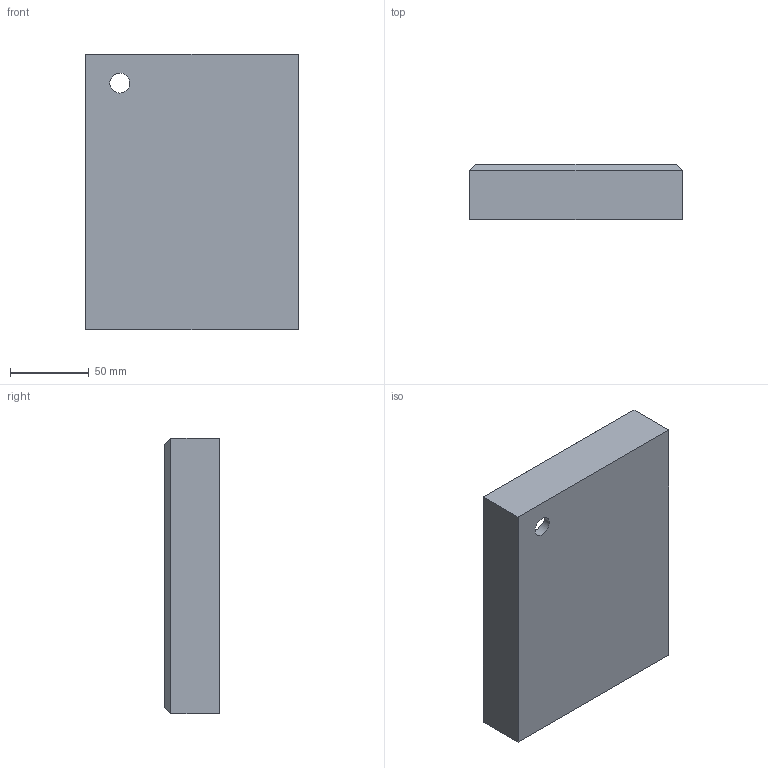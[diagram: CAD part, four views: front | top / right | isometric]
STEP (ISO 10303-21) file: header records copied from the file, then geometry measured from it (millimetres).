
FILE_DESCRIPTION (( 'STEP AP214' ), '1' );
FILE_NAME ('LightBox.STEP', '2020-02-05T03:36:35', ( '' ), ( '' ), 'SwSTEP 2.0', 'SolidWorks 2019', '' );
FILE_SCHEMA (( 'AUTOMOTIVE_DESIGN' ));
Length unit declared in the file: millimetre
Products named in the file (1): LightBox
Bounding box: 134.9 x 35 x 174.65 mm (x, y, z)
Volume: 341823 mm3; surface area: 87940.1 mm2
Topology: 1 solids, 1 shells, 67 faces, 168 edges, 111 vertices
Faces by surface type: plane 58, cylinder 9
Full cylindrical faces by diameter (mm): 7.62 x6, 12.7 x1
Entity records: 1972 total; most frequent: CARTESIAN_POINT 344, ORIENTED_EDGE 320, DIRECTION 312, EDGE_CURVE 160, VECTOR 142, LINE 142, VERTEX_POINT 110, AXIS2_PLACEMENT_3D 85
